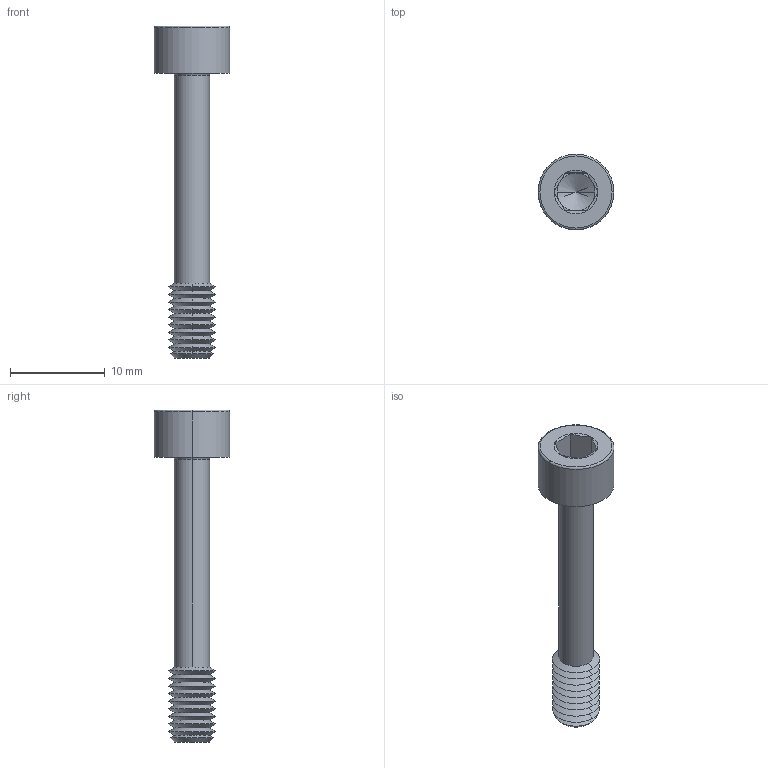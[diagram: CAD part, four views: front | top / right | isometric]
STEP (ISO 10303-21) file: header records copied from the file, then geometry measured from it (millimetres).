
FILE_DESCRIPTION (( 'STEP AP203' ), '1' );
FILE_NAME ('P0154.050-030-BL.step', '2024-06-17T11:27:13', ( '' ), ( '' ), 'SwSTEP 2.0', 'SolidWorks 2019', '' );
FILE_SCHEMA (( 'CONFIG_CONTROL_DESIGN' ));
Length unit declared in the file: millimetre
Products named in the file (1): P0154.050-030-BL
Bounding box: 8 x 8 x 35 mm (x, y, z)
Volume: 543.5 mm3; surface area: 745.5 mm2
Topology: 1 solids, 1 shells, 71 faces, 144 edges, 75 vertices
Faces by surface type: cone 48, plane 15, torus 4, cylinder 4
Entity records: 1887 total; most frequent: DIRECTION 352, CARTESIAN_POINT 315, ORIENTED_EDGE 284, AXIS2_PLACEMENT_3D 144, EDGE_CURVE 142, VERTEX_POINT 75, EDGE_LOOP 73, CIRCLE 72
